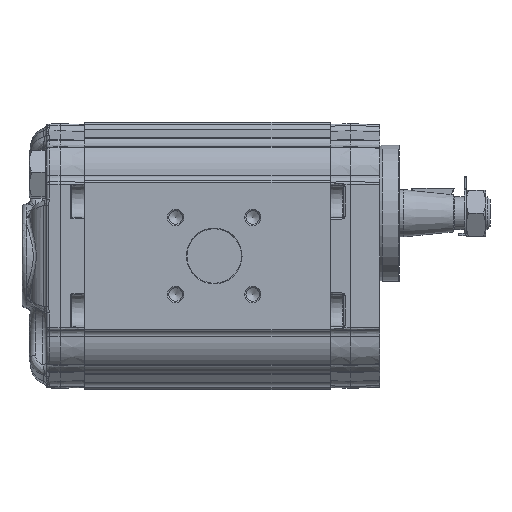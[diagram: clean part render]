
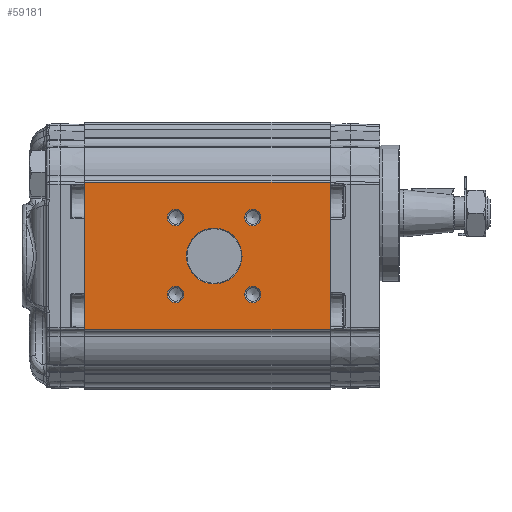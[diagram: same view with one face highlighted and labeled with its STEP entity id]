
A CAD part, left-side view. The second image highlights one B-rep face of the part: STEP entity #59181.
In plain terms, the highlighted planar face has unit normal (-1, 0, 0).
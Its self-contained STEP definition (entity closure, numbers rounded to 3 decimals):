
#3898=PLANE('',#62840);
#5246=CIRCLE('',#62841,10.2);
#5247=CIRCLE('',#62842,3.);
#5248=CIRCLE('',#62843,3.);
#5249=CIRCLE('',#62844,3.);
#5250=CIRCLE('',#62845,3.);
#11503=ORIENTED_EDGE('',*,*,#21214,.T.);
#11504=ORIENTED_EDGE('',*,*,#21215,.T.);
#11505=ORIENTED_EDGE('',*,*,#21216,.T.);
#11506=ORIENTED_EDGE('',*,*,#21217,.T.);
#11507=ORIENTED_EDGE('',*,*,#21218,.T.);
#11508=ORIENTED_EDGE('',*,*,#21219,.F.);
#11509=ORIENTED_EDGE('',*,*,#21220,.F.);
#11510=ORIENTED_EDGE('',*,*,#21221,.T.);
#11511=ORIENTED_EDGE('',*,*,#21222,.T.);
#21214=EDGE_CURVE('',#26396,#26396,#5246,.F.);
#21215=EDGE_CURVE('',#26397,#26397,#5247,.F.);
#21216=EDGE_CURVE('',#26398,#26398,#5248,.F.);
#21217=EDGE_CURVE('',#26399,#26399,#5249,.F.);
#21218=EDGE_CURVE('',#26400,#26400,#5250,.F.);
#21219=EDGE_CURVE('',#26401,#26402,#29497,.T.);
#21220=EDGE_CURVE('',#26403,#26401,#29498,.T.);
#21221=EDGE_CURVE('',#26403,#26404,#29499,.T.);
#21222=EDGE_CURVE('',#26404,#26402,#29500,.T.);
#26396=VERTEX_POINT('',#90761);
#26397=VERTEX_POINT('',#90763);
#26398=VERTEX_POINT('',#90765);
#26399=VERTEX_POINT('',#90767);
#26400=VERTEX_POINT('',#90769);
#26401=VERTEX_POINT('',#90771);
#26402=VERTEX_POINT('',#90772);
#26403=VERTEX_POINT('',#90774);
#26404=VERTEX_POINT('',#90776);
#29497=LINE('',#90770,#31643);
#29498=LINE('',#90773,#31644);
#29499=LINE('',#90775,#31645);
#29500=LINE('',#90777,#31646);
#31643=VECTOR('',#69995,1000.);
#31644=VECTOR('',#69996,1000.);
#31645=VECTOR('',#69997,1000.);
#31646=VECTOR('',#69998,1000.);
#34151=EDGE_LOOP('',(#11503));
#34152=EDGE_LOOP('',(#11504));
#34153=EDGE_LOOP('',(#11505));
#34154=EDGE_LOOP('',(#11506));
#34155=EDGE_LOOP('',(#11507));
#34156=EDGE_LOOP('',(#11508,#11509,#11510,#11511));
#37074=FACE_BOUND('',#34151,.T.);
#37075=FACE_BOUND('',#34152,.T.);
#37076=FACE_BOUND('',#34153,.T.);
#37077=FACE_BOUND('',#34154,.T.);
#37078=FACE_BOUND('',#34155,.T.);
#37079=FACE_BOUND('',#34156,.T.);
#59181=ADVANCED_FACE('',(#37074,#37075,#37076,#37077,#37078,#37079),#3898,
 .T.);
#62840=AXIS2_PLACEMENT_3D('',#90759,#69983,#69984);
#62841=AXIS2_PLACEMENT_3D('',#90760,#69985,#69986);
#62842=AXIS2_PLACEMENT_3D('',#90762,#69987,#69988);
#62843=AXIS2_PLACEMENT_3D('',#90764,#69989,#69990);
#62844=AXIS2_PLACEMENT_3D('',#90766,#69991,#69992);
#62845=AXIS2_PLACEMENT_3D('',#90768,#69993,#69994);
#69983=DIRECTION('',(-1.,0.,0.));
#69984=DIRECTION('',(0.,0.,1.));
#69985=DIRECTION('',(-1.,0.,0.));
#69986=DIRECTION('',(0.,0.,1.));
#69987=DIRECTION('',(-1.,0.,0.));
#69988=DIRECTION('',(0.,0.,1.));
#69989=DIRECTION('',(-1.,0.,0.));
#69990=DIRECTION('',(0.,0.,1.));
#69991=DIRECTION('',(-1.,0.,0.));
#69992=DIRECTION('',(0.,0.,1.));
#69993=DIRECTION('',(-1.,0.,0.));
#69994=DIRECTION('',(0.,0.,1.));
#69995=DIRECTION('',(0.,0.,-1.));
#69996=DIRECTION('',(0.,-1.,0.));
#69997=DIRECTION('',(0.,0.,-1.));
#69998=DIRECTION('',(0.,-1.,0.));
#90759=CARTESIAN_POINT('',(-43.,90.,27.048));
#90760=CARTESIAN_POINT('',(-43.,42.5,0.));
#90761=CARTESIAN_POINT('',(-43.,42.5,10.2));
#90762=CARTESIAN_POINT('',(-43.,56.642,-14.142));
#90763=CARTESIAN_POINT('',(-43.,56.642,-11.142));
#90764=CARTESIAN_POINT('',(-43.,56.642,14.142));
#90765=CARTESIAN_POINT('',(-43.,56.642,17.142));
#90766=CARTESIAN_POINT('',(-43.,28.358,14.142));
#90767=CARTESIAN_POINT('',(-43.,28.358,17.142));
#90768=CARTESIAN_POINT('',(-43.,28.358,-14.142));
#90769=CARTESIAN_POINT('',(-43.,28.358,-11.142));
#90770=CARTESIAN_POINT('',(-43.,0.,27.048));
#90771=CARTESIAN_POINT('',(-43.,0.,27.048));
#90772=CARTESIAN_POINT('',(-43.,0.,-27.048));
#90773=CARTESIAN_POINT('',(-43.,90.,27.048));
#90774=CARTESIAN_POINT('',(-43.,90.,27.048));
#90775=CARTESIAN_POINT('',(-43.,90.,27.048));
#90776=CARTESIAN_POINT('',(-43.,90.,-27.048));
#90777=CARTESIAN_POINT('',(-43.,90.,-27.048));
